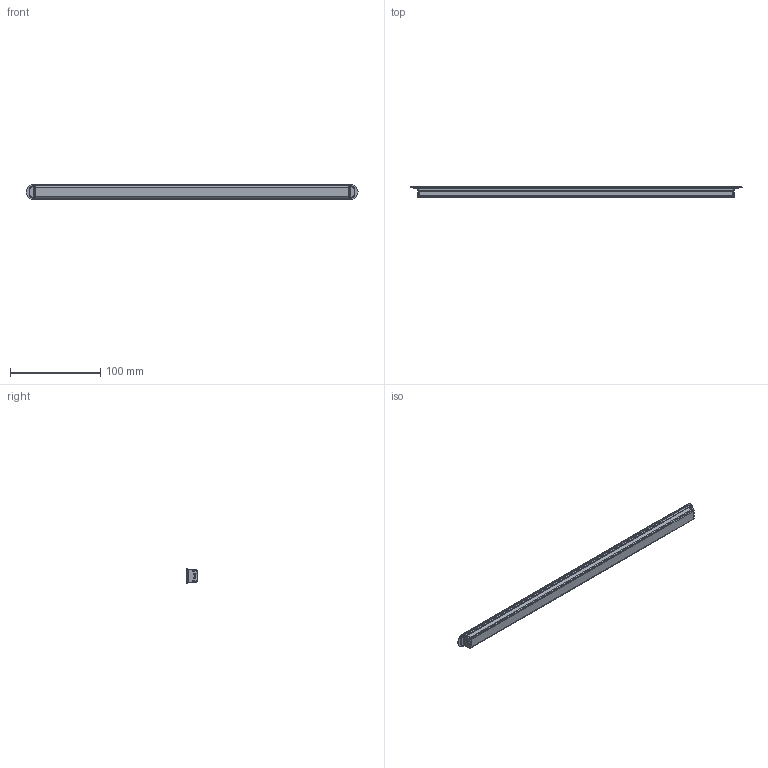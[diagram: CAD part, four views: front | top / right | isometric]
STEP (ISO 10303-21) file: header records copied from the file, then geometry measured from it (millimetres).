
FILE_DESCRIPTION(/* description */ (''),/* implementation_level */ '2;1');
FILE_NAME(/* name */ '6113031_Malindi_Aluprofil_sldprt.stp',/* time_stamp */ '2019-06-07T07:07:47+02:00',/* author */ (''),/* organization */ (''),/* preprocessor_version */ 'ST-DEVELOPER v16.7',/* originating_system */ 'SIEMENS PLM Software NX 12.0',/* authorisation */ '');
FILE_SCHEMA (('AUTOMOTIVE_DESIGN { 1 0 10303 214 3 1 1 1 }'));
Length unit declared in the file: millimetre
Products named in the file (1): p.sc0DF892D9ppoj
Bounding box: 367 x 11.29 x 17 mm (x, y, z)
Volume: 54357.5 mm3; surface area: 22988.8 mm2
Topology: 1 solids, 1 shells, 210 faces, 576 edges, 372 vertices
Faces by surface type: plane 95, cylinder 81, torus 12, bspline 12, cone 8, sphere 2
Entity records: 7835 total; most frequent: CARTESIAN_POINT 2233, ORIENTED_EDGE 1152, DIRECTION 1148, EDGE_CURVE 576, AXIS2_PLACEMENT_3D 399, VERTEX_POINT 372, LINE 350, VECTOR 350
